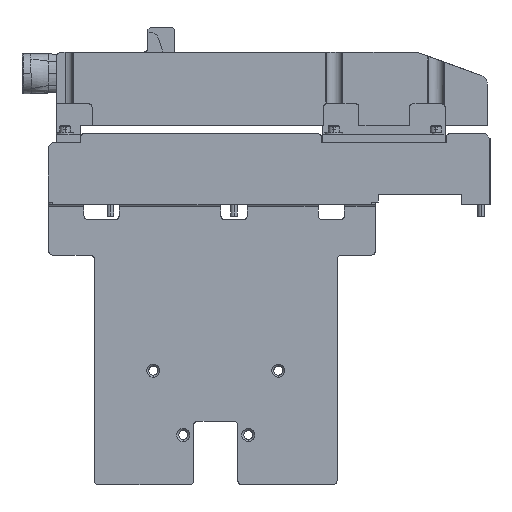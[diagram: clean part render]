
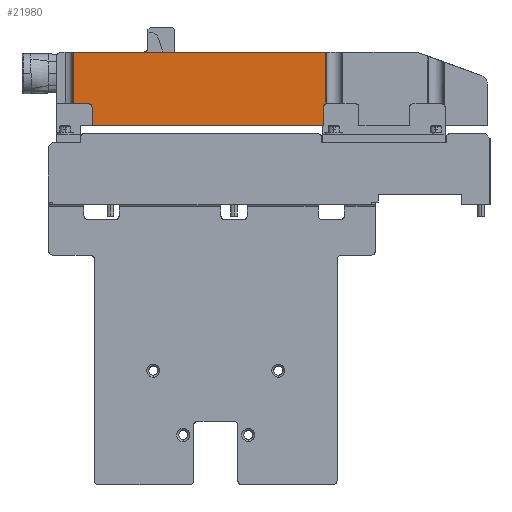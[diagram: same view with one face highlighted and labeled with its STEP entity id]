
A CAD part, left-side view. The second image highlights one B-rep face of the part: STEP entity #21980.
In plain terms, the highlighted planar face has unit normal (-1, 0, 0).
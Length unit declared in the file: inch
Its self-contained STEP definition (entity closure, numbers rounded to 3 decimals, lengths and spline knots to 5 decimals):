
#462 = VECTOR ( 'NONE', #3412, 39.37008 ) ;
#465 = CIRCLE ( 'NONE', #469, 0.09 ) ;
#469 = AXIS2_PLACEMENT_3D ( 'NONE', #3424, #3425, #3427 ) ;
#479 = VECTOR ( 'NONE', #3445, 39.37008 ) ;
#482 = VECTOR ( 'NONE', #3448, 39.37008 ) ;
#1692 = CARTESIAN_POINT ( 'NONE',  ( -1.025, -0.47663, 1.1 ) ) ;
#1699 = CARTESIAN_POINT ( 'NONE',  ( -1.025, 0., 2.565 ) ) ;
#1708 = LINE ( 'NONE', #1699, #48448 ) ;
#1716 = DIRECTION ( 'NONE',  ( 0., -1., 0. ) ) ;
#1719 = LINE ( 'NONE', #1732, #48486 ) ;
#1721 = LINE ( 'NONE', #1738, #48489 ) ;
#1723 = LINE ( 'NONE', #1692, #48481 ) ;
#1724 = CARTESIAN_POINT ( 'NONE',  ( -1.025, -7.645, 1.01 ) ) ;
#1726 = DIRECTION ( 'NONE',  ( -1., 0., 0. ) ) ;
#1728 = DIRECTION ( 'NONE',  ( 0., -1., 0. ) ) ;
#1731 = DIRECTION ( 'NONE',  ( 0., 0., -1. ) ) ;
#1732 = CARTESIAN_POINT ( 'NONE',  ( -1.025, -7.555, 0.5 ) ) ;
#1736 = DIRECTION ( 'NONE',  ( 0., 0., -1. ) ) ;
#1738 = CARTESIAN_POINT ( 'NONE',  ( -1.025, -7.61637, 2.565 ) ) ;
#1741 = DIRECTION ( 'NONE',  ( 0., 0., 1. ) ) ;
#2947 = CARTESIAN_POINT ( 'NONE',  ( -1.025, -7.555, 1.01 ) ) ;
#2955 = CARTESIAN_POINT ( 'NONE',  ( -1.025, -7.61637, 1.09532 ) ) ;
#3409 = LINE ( 'NONE', #3411, #462 ) ;
#3411 = CARTESIAN_POINT ( 'NONE',  ( -1.025, 0., 1.1 ) ) ;
#3412 = DIRECTION ( 'NONE',  ( 0., 1., 0. ) ) ;
#3424 = CARTESIAN_POINT ( 'NONE',  ( -1.025, -0.91, 1.01 ) ) ;
#3425 = DIRECTION ( 'NONE',  ( -1., 0., 0. ) ) ;
#3427 = DIRECTION ( 'NONE',  ( 0., -1., 0. ) ) ;
#3429 = CARTESIAN_POINT ( 'NONE',  ( -1.025, 0., 0.5 ) ) ;
#3434 = LINE ( 'NONE', #3429, #479 ) ;
#3445 = DIRECTION ( 'NONE',  ( 0., -1., 0. ) ) ;
#3446 = LINE ( 'NONE', #3447, #482 ) ;
#3447 = CARTESIAN_POINT ( 'NONE',  ( -1.025, -1., 1.01 ) ) ;
#3448 = DIRECTION ( 'NONE',  ( 0., 0., 1. ) ) ;
#8745 = AXIS2_PLACEMENT_3D ( 'NONE', #30091, #30153, #30151 ) ;
#10200 = CARTESIAN_POINT ( 'NONE',  ( -1.025, -7.61637, 2.565 ) ) ;
#10212 = CARTESIAN_POINT ( 'NONE',  ( -1.025, -0.47663, 2.565 ) ) ;
#13752 = ORIENTED_EDGE ( 'NONE', *, *, #44028, .T. ) ;
#14687 = ORIENTED_EDGE ( 'NONE', *, *, #43550, .T. ) ;
#14703 = ORIENTED_EDGE ( 'NONE', *, *, #43549, .F. ) ;
#14937 = ORIENTED_EDGE ( 'NONE', *, *, #44030, .F. ) ;
#17737 = VERTEX_POINT ( 'NONE', #10200 ) ;
#17759 = VERTEX_POINT ( 'NONE', #10212 ) ;
#20508 = VERTEX_POINT ( 'NONE', #36545 ) ;
#20511 = VERTEX_POINT ( 'NONE', #36542 ) ;
#20513 = VERTEX_POINT ( 'NONE', #36540 ) ;
#20514 = VERTEX_POINT ( 'NONE', #36539 ) ;
#20515 = VERTEX_POINT ( 'NONE', #36538 ) ;
#21980 = ADVANCED_FACE ( 'NONE', ( #30044 ), #30073, .T. ) ;
#24361 = VERTEX_POINT ( 'NONE', #2947 ) ;
#24365 = VERTEX_POINT ( 'NONE', #2955 ) ;
#30044 = FACE_OUTER_BOUND ( 'NONE', #44928, .T. ) ;
#30073 = PLANE ( 'NONE',  #8745 ) ;
#30091 = CARTESIAN_POINT ( 'NONE',  ( -1.025, 0., 0.5 ) ) ;
#30151 = DIRECTION ( 'NONE',  ( 0., -1., 0. ) ) ;
#30153 = DIRECTION ( 'NONE',  ( -1., 0., 0. ) ) ;
#36538 = CARTESIAN_POINT ( 'NONE',  ( -1.025, -1., 0.5 ) ) ;
#36539 = CARTESIAN_POINT ( 'NONE',  ( -1.025, -0.91, 1.1 ) ) ;
#36540 = CARTESIAN_POINT ( 'NONE',  ( -1.025, -1., 1.01 ) ) ;
#36542 = CARTESIAN_POINT ( 'NONE',  ( -1.025, -7.555, 0.5 ) ) ;
#36545 = CARTESIAN_POINT ( 'NONE',  ( -1.025, -0.47663, 1.1 ) ) ;
#38576 = ORIENTED_EDGE ( 'NONE', *, *, #43547, .F. ) ;
#38664 = ORIENTED_EDGE ( 'NONE', *, *, #43546, .F. ) ;
#38720 = ORIENTED_EDGE ( 'NONE', *, *, #43548, .T. ) ;
#39725 = ORIENTED_EDGE ( 'NONE', *, *, #44015, .F. ) ;
#40228 = ORIENTED_EDGE ( 'NONE', *, *, #44011, .F. ) ;
#43546 = EDGE_CURVE ( 'NONE', #17759, #17737, #1708, .T. ) ;
#43547 = EDGE_CURVE ( 'NONE', #24365, #24361, #48484, .T. ) ;
#43548 = EDGE_CURVE ( 'NONE', #17759, #20508, #1723, .T. ) ;
#43549 = EDGE_CURVE ( 'NONE', #24361, #20511, #1719, .T. ) ;
#43550 = EDGE_CURVE ( 'NONE', #24365, #17737, #1721, .T. ) ;
#44011 = EDGE_CURVE ( 'NONE', #20514, #20508, #3409, .T. ) ;
#44015 = EDGE_CURVE ( 'NONE', #20513, #20514, #465, .T. ) ;
#44028 = EDGE_CURVE ( 'NONE', #20515, #20511, #3434, .T. ) ;
#44030 = EDGE_CURVE ( 'NONE', #20515, #20513, #3446, .T. ) ;
#44928 = EDGE_LOOP ( 'NONE', ( #38576, #14687, #38664, #38720, #40228, #39725, #14937, #13752, #14703 ) ) ;
#48448 = VECTOR ( 'NONE', #1716, 39.37008 ) ;
#48481 = VECTOR ( 'NONE', #1731, 39.37008 ) ;
#48484 = CIRCLE ( 'NONE', #48488, 0.09 ) ;
#48486 = VECTOR ( 'NONE', #1736, 39.37008 ) ;
#48488 = AXIS2_PLACEMENT_3D ( 'NONE', #1724, #1726, #1728 ) ;
#48489 = VECTOR ( 'NONE', #1741, 39.37008 ) ;
